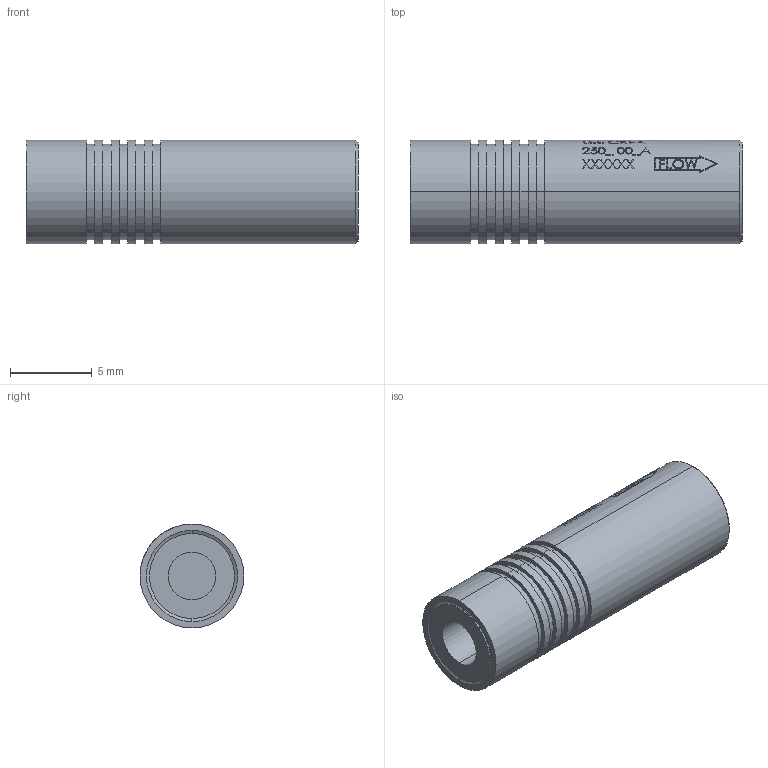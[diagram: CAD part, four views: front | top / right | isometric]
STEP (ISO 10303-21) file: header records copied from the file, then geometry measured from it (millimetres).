
FILE_DESCRIPTION (( 'STEP AP214' ), '1' );
FILE_NAME ('3DCKFA250-00-A.STEP', '2021-03-29T20:07:02', ( '' ), ( '' ), 'SwSTEP 2.0', 'SolidWorks 2019', '' );
FILE_SCHEMA (( 'AUTOMOTIVE_DESIGN' ));
Length unit declared in the file: inch
Products named in the file (1): 3DCKFA250-00-A
Bounding box: 20.32 x 6.35 x 6.35 mm (x, y, z)
Volume: 583.5 mm3; surface area: 579 mm2
Topology: 1 solids, 1 shells, 371 faces, 962 edges, 640 vertices
Faces by surface type: bspline 156, plane 150, cylinder 61, cone 4
Entity records: 19170 total; most frequent: CARTESIAN_POINT 7234, ORIENTED_EDGE 1924, DIRECTION 1012, EDGE_CURVE 962, VERTEX_POINT 640, B_SPLINE_CURVE_WITH_KNOTS 524, EDGE_LOOP 418, ADVANCED_FACE 371
